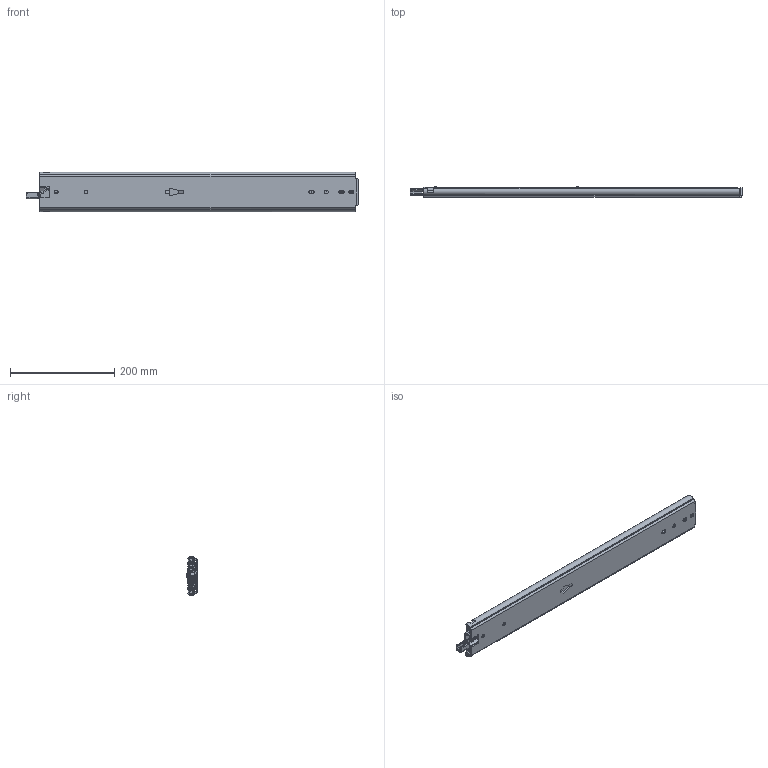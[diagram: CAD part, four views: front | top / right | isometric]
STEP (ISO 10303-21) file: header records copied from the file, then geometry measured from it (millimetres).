
FILE_DESCRIPTION((''),'2;1');
FILE_NAME('DCL2307619-609-CLOSE_ASM_ASM','2023-05-10T',('jishu015'),(''),'PRO/ENGINEER BY PARAMETRIC TECHNOLOGY CORPORATION, 2010280','PRO/ENGINEER BY PARAMETRIC TECHNOLOGY CORPORATION, 2010280','');
FILE_SCHEMA(('CONFIG_CONTROL_DESIGN'));
Length unit declared in the file: millimetre
Products named in the file (32): KP-76-04WAIKE-1816____2; 1076-WAIKEZIDANJIAO16____1; WAIK16____ASM_1_ASM; 1076XIAOZHUTIAO-22516____2; 16____1; 1076XIAOZHUTIAO-17516____ASM_2_ASM; KP-76-04ZHONGGUI1816____2; 76CHANGGUIZHONGGUIJIAO16____1; 3X6WODIN16____1; ZHONGGUIBAIKOU16____1; PJ-76-30___1; PJ-76-03___1; 76-XIAOZHUJIA-11___2; GANGZHU-XIAO___1; ZHUJIA-XIAO___ASM_2_ASM; ZHONGGUI6____ASM_2_ASM; KP-76-04NEIGUI1816____2; PJ-76-31___1; DAOGPIAN16____2; MANIFOLD_SOLID_BREP_58957; MANIFOLD_SOLID_BREP_59398; 1053-3SBANJ01___1_ASM; JIAO-11___1; 76XINSUOKOU___1; PJ-338___1; PJ-356___1; PJ-357___1; PJ-336___1; M4X4___1; NEIGUI16____ASM_2_ASM; DG-76-3S-24ZUO_ASM_2_ASM; DCL2307619-609-CLOSE_ASM_ASM
Assembly tree (61 placements, depth 5):
  DCL2307619-609-CLOSE_ASM_ASM
    DG-76-3S-24ZUO_ASM_2_ASM
      WAIK16____ASM_1_ASM
        KP-76-04WAIKE-1816____2
        1076-WAIKEZIDANJIAO16____1  x2
      1076XIAOZHUTIAO-17516____ASM_2_ASM  x2
        1076XIAOZHUTIAO-22516____2
        16____1
      ZHONGGUI6____ASM_2_ASM
        KP-76-04ZHONGGUI1816____2
        76CHANGGUIZHONGGUIJIAO16____1
        3X6WODIN16____1
        ZHONGGUIBAIKOU16____1
        PJ-76-30___1
        PJ-76-03___1
        ZHUJIA-XIAO___ASM_2_ASM
          76-XIAOZHUJIA-11___2
          GANGZHU-XIAO___1  x20
      NEIGUI16____ASM_2_ASM
        KP-76-04NEIGUI1816____2
        PJ-76-31___1
        DAOGPIAN16____2
        1053-3SBANJ01___1_ASM
          MANIFOLD_SOLID_BREP_58957
          MANIFOLD_SOLID_BREP_59398
        JIAO-11___1
        76XINSUOKOU___1
        PJ-338___1
        PJ-356___1
        PJ-357___1
        PJ-336___1
        M4X4___1
Bounding box: 635.52 x 20.7 x 75.29 mm (x, y, z)
Volume: 398911 mm3; surface area: 384174.7 mm2
Topology: 64 solids, 64 shells, 2063 faces, 6461 edges, 4253 vertices
Faces by surface type: plane 876, cylinder 763, sphere 147, bspline 129, torus 96, cone 28, extrusion 24
Entity records: 75157 total; most frequent: CARTESIAN_POINT 24489, ORIENTED_EDGE 11298, DIRECTION 9878, EDGE_CURVE 5649, VERTEX_POINT 3796, AXIS2_PLACEMENT_3D 3574, VECTOR 2730, LINE 2706
